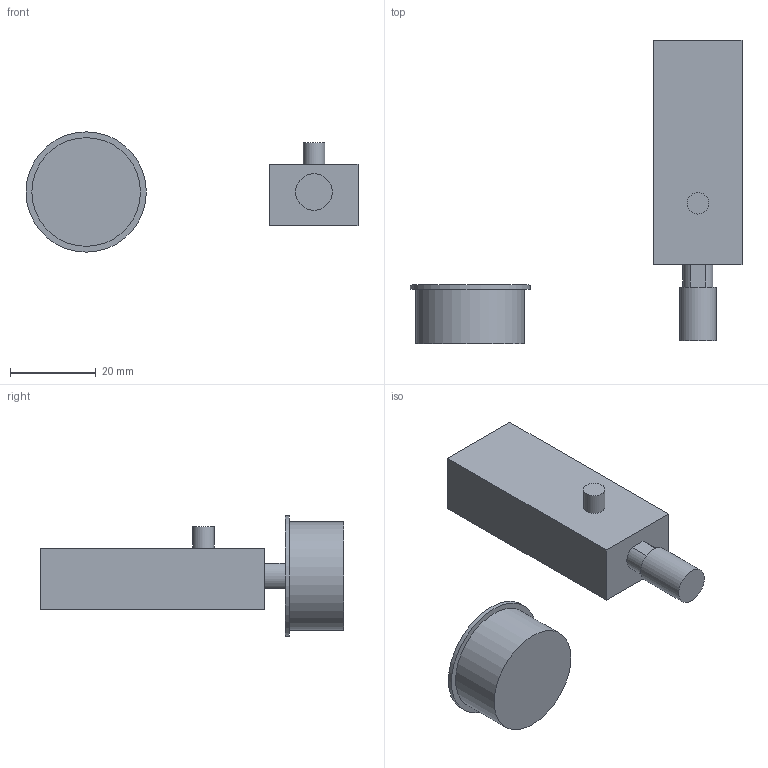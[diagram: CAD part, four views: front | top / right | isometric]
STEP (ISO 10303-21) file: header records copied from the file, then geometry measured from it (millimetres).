
FILE_DESCRIPTION( ( 'STEP AP214' ), '1' );
FILE_NAME( 'D:/Yug/2020/Sliding_&_Folding_Door_System/WingLine_L/Stay closed set & Centre Hinge/QC/9264191.stp', '2020-06-15T11:48:12', ( '' ), ( '' ), ' ', 'PARTsolutions', ' ' );
FILE_SCHEMA( ( 'AUTOMOTIVE_DESIGN { 1 0 10303 214 1 1 1 1 }' ) );
Length unit declared in the file: millimetre
Products named in the file (3): 9264191; _push_click; _door_connector
Assembly tree (2 placements, depth 2):
  9264191
    _push_click
    _door_connector
Bounding box: 77.25 x 70.7 x 28 mm (x, y, z)
Volume: 18217.4 mm3; surface area: 8017.6 mm2
Topology: 2 solids, 2 shells, 22 faces, 40 edges, 27 vertices
Faces by surface type: plane 15, cylinder 7
Full cylindrical faces by diameter (mm): 5 x1, 8.5 x1, 22.56 x1, 25.26 x1, 28 x1
Entity records: 742 total; most frequent: DIRECTION 98, CARTESIAN_POINT 85, ORIENTED_EDGE 68, AXIS2_PLACEMENT_3D 39, EDGE_CURVE 34, EDGE_LOOP 32, FACE_OUTER_BOUND 27, VERTEX_POINT 26
